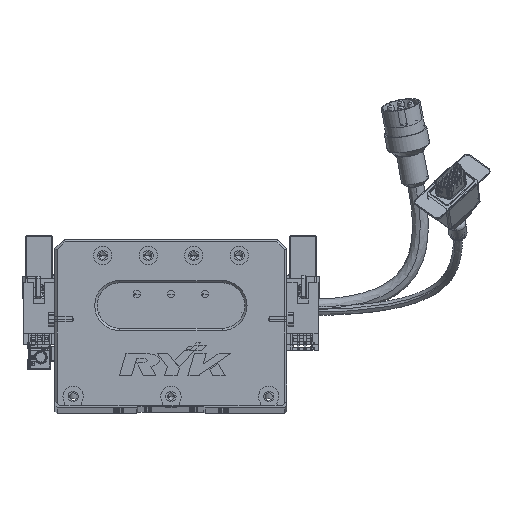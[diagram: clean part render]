
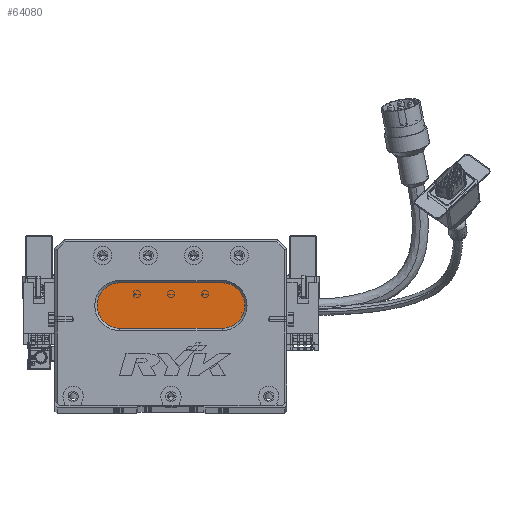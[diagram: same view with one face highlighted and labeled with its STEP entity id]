
A CAD part, top view. The second image highlights one B-rep face of the part: STEP entity #64080.
In plain terms, the highlighted planar face has unit normal (0, 0, 1) as drawn and (0, 0, -1) by its records, which use the part's own axes.
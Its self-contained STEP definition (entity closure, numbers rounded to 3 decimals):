
#27 = ORIENTED_EDGE ( 'NONE', *, *, #70719, .T. ) ;
#1388 = DIRECTION ( 'NONE',  ( 1., 0., 0. ) ) ;
#1863 = CARTESIAN_POINT ( 'NONE',  ( 73.5, 54., 13. ) ) ;
#2144 = CIRCLE ( 'NONE', #39450, 10. ) ;
#2822 = CIRCLE ( 'NONE', #49934, 10. ) ;
#3672 = DIRECTION ( 'NONE',  ( 0., 0., -1. ) ) ;
#5094 = CARTESIAN_POINT ( 'NONE',  ( 28.5, 54., 13. ) ) ;
#6167 = CARTESIAN_POINT ( 'NONE',  ( 73.5, 44., 13. ) ) ;
#7898 = CARTESIAN_POINT ( 'NONE',  ( 73.5, 34., 13. ) ) ;
#8187 = AXIS2_PLACEMENT_3D ( 'NONE', #6167, #11933, #18401 ) ;
#11741 = LINE ( 'NONE', #7898, #45553 ) ;
#11886 = ORIENTED_EDGE ( 'NONE', *, *, #19221, .T. ) ;
#11933 = DIRECTION ( 'NONE',  ( 0., 0., -1. ) ) ;
#12753 = VERTEX_POINT ( 'NONE', #19649 ) ;
#17818 = EDGE_CURVE ( 'NONE', #61839, #12753, #2144, .T. ) ;
#18401 = DIRECTION ( 'NONE',  ( -1., 0., 0. ) ) ;
#19221 = EDGE_CURVE ( 'NONE', #12753, #39747, #11741, .T. ) ;
#19649 = CARTESIAN_POINT ( 'NONE',  ( 73.5, 34., 13. ) ) ;
#20378 = CARTESIAN_POINT ( 'NONE',  ( 73.5, 44., 13. ) ) ;
#21472 = CARTESIAN_POINT ( 'NONE',  ( 28.5, 44., 13. ) ) ;
#26285 = CARTESIAN_POINT ( 'NONE',  ( 28.5, 34., 13. ) ) ;
#27191 = DIRECTION ( 'NONE',  ( 0., 0., -1. ) ) ;
#28351 = DIRECTION ( 'NONE',  ( 0., 0., -1. ) ) ;
#28657 = VERTEX_POINT ( 'NONE', #5094 ) ;
#30781 = DIRECTION ( 'NONE',  ( -1., 0., 0. ) ) ;
#32313 = ORIENTED_EDGE ( 'NONE', *, *, #17818, .T. ) ;
#33489 = VECTOR ( 'NONE', #1388, 1000. ) ;
#39041 = CIRCLE ( 'NONE', #56346, 10. ) ;
#39404 = DIRECTION ( 'NONE',  ( -1., 0., 0. ) ) ;
#39450 = AXIS2_PLACEMENT_3D ( 'NONE', #20378, #3672, #65614 ) ;
#39747 = VERTEX_POINT ( 'NONE', #26285 ) ;
#45553 = VECTOR ( 'NONE', #30781, 1000. ) ;
#49934 = AXIS2_PLACEMENT_3D ( 'NONE', #21472, #27191, #39404 ) ;
#51338 = FACE_OUTER_BOUND ( 'NONE', #67562, .T. ) ;
#51475 = ORIENTED_EDGE ( 'NONE', *, *, #55397, .T. ) ;
#52132 = LINE ( 'NONE', #1863, #33489 ) ;
#55397 = EDGE_CURVE ( 'NONE', #39747, #72440, #39041, .T. ) ;
#56346 = AXIS2_PLACEMENT_3D ( 'NONE', #67641, #28351, #56680 ) ;
#56680 = DIRECTION ( 'NONE',  ( -1., 0., 0. ) ) ;
#57407 = PLANE ( 'NONE',  #8187 ) ;
#59815 = CARTESIAN_POINT ( 'NONE',  ( 73.5, 54., 13. ) ) ;
#60270 = EDGE_CURVE ( 'NONE', #72440, #28657, #2822, .T. ) ;
#61839 = VERTEX_POINT ( 'NONE', #59815 ) ;
#63778 = CARTESIAN_POINT ( 'NONE',  ( 18.5, 44., 13. ) ) ;
#64080 = ADVANCED_FACE ( 'NONE', ( #51338 ), #57407, .T. ) ;
#65614 = DIRECTION ( 'NONE',  ( -1., 0., 0. ) ) ;
#66416 = ORIENTED_EDGE ( 'NONE', *, *, #60270, .T. ) ;
#67562 = EDGE_LOOP ( 'NONE', ( #32313, #11886, #51475, #66416, #27 ) ) ;
#67641 = CARTESIAN_POINT ( 'NONE',  ( 28.5, 44., 13. ) ) ;
#70719 = EDGE_CURVE ( 'NONE', #28657, #61839, #52132, .T. ) ;
#72440 = VERTEX_POINT ( 'NONE', #63778 ) ;
